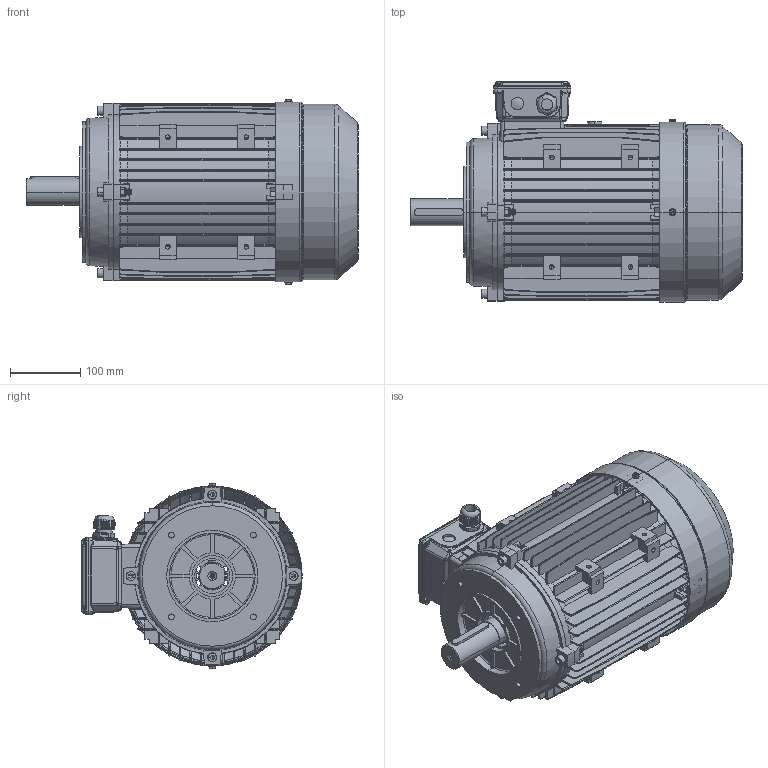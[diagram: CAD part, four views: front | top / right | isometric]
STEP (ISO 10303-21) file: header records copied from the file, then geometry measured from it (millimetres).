
FILE_DESCRIPTION (( 'STEP AP203' ), '1' );
FILE_NAME ('IE1 132M assembly B14.STEP', '2017-08-07T02:22:35', ( 'user' ), ( 'china' ), 'SwSTEP 2.0', 'SolidWorks 2016', '' );
FILE_SCHEMA (( 'CONFIG_CONTROL_DESIGN' ));
Length unit declared in the file: millimetre
Products named in the file (15): MS132 綴裔瑞欶郪磁; GB-T 41-2000 M8; IE1 132M assembly B14; GB-T 29.2-1988 M5鞠褒坋趼湍菜_10; M132-Shaft drive end_DNF; M132儂褲_M; M63-132諉盄碟裔(陔)_CIRO112-132; M132傷裔B14 ; M63-132諉盄碟釱(陔)_CIRO112-132; M63-132諉盄碟(陔)_112-132 M25; GB-T 70.1-2000 M8_40; M25 cable gland; M132瑞欶_117; GB-T 29.2-1988 M4_10; M132傷裔B3_NonDrive
Assembly tree (25 placements, depth 3):
  IE1 132M assembly B14
    M132儂褲_M
    M132-Shaft drive end_DNF
    M63-132諉盄碟(陔)_112-132 M25
      M63-132諉盄碟釱(陔)_CIRO112-132
      M63-132諉盄碟裔(陔)_CIRO112-132
      GB-T 29.2-1988 M4_10  x4
      M25 cable gland
    MS132 綴裔瑞欶郪磁
      M132傷裔B3_NonDrive
      M132瑞欶_117
      GB-T 29.2-1988 M5鞠褒坋趼湍菜_10  x3
    GB-T 41-2000 M8  x4
    GB-T 70.1-2000 M8_40  x4
    M132傷裔B14 
Bounding box: 473 x 314.2 x 264.6 mm (x, y, z)
Volume: 2511161 mm3; surface area: 1359698.8 mm2
Topology: 24 solids, 24 shells, 5037 faces, 13129 edges, 8097 vertices
Faces by surface type: plane 1968, cylinder 1297, cone 866, bspline 682, torus 152, sphere 72
Entity records: 163963 total; most frequent: CARTESIAN_POINT 66643, ORIENTED_EDGE 21262, DIRECTION 17972, EDGE_CURVE 10631, VERTEX_POINT 6677, AXIS2_PLACEMENT_3D 6099, LINE 5774, VECTOR 5774
